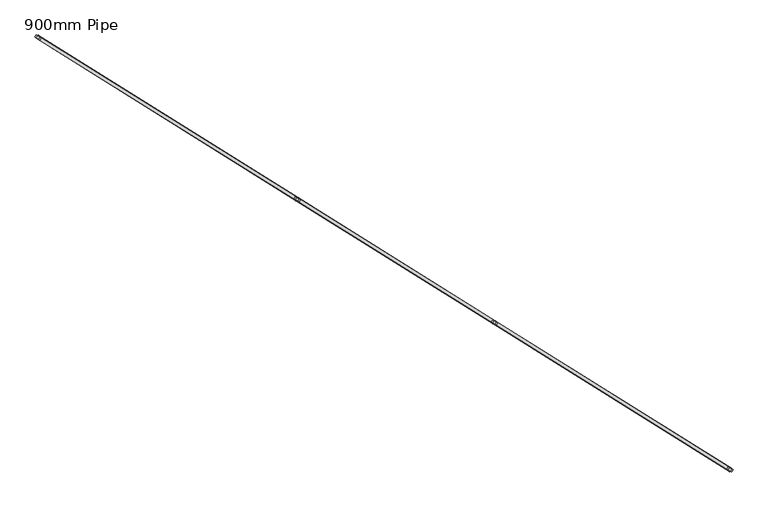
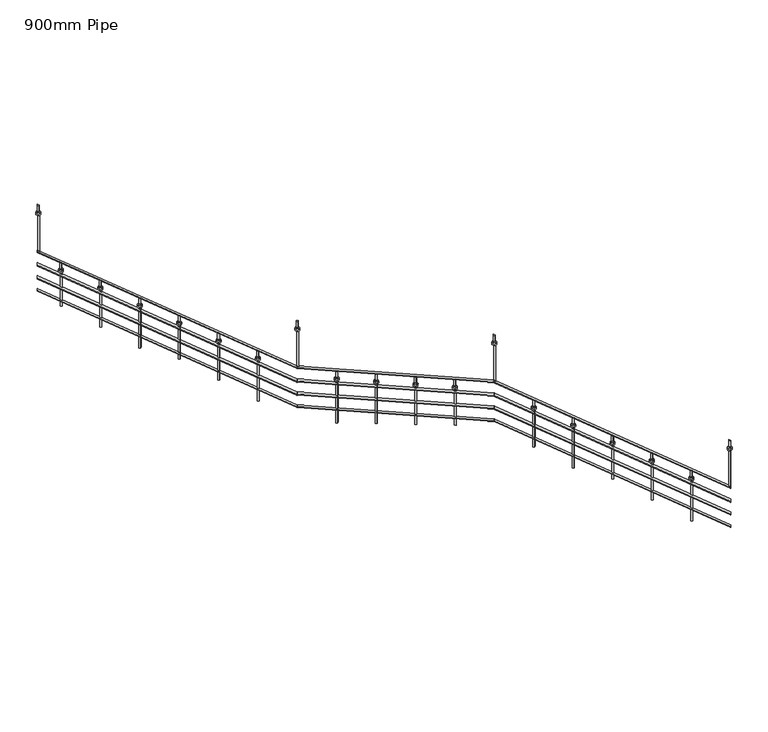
"""IFC4 building model written with IfcOpenShell, lengths in millimetres: railing geometry, 900mm Pipe."""

from ifc_helpers import new_model, si_unit, point, frame, frame_2d, origin, place, context, project, spatial, polyline, circle_curve, ellipse_curve, trimmed, segment, composite_curve, outline, extrude, source, transform, mapped, element, save
from ifc_brep_helpers import plane_surface, cylinder_surface, advanced_brep


def railing_900mm_pipe_e5f11df8(model_context):
    return source(origin(), model_context, "Body", "SolidModel", [
        advanced_brep(
        [(41792.9795079, -34893.5068983, -2760.3971154), (41777.08193, -34918.9483412, -2760.3971154), (39248.8352195, -33303.7491056, -1195.179724), (39232.9376415, -33329.1905485, -1195.179724)],
        [
            (0, 1, ellipse_curve(frame((41785.030719, -34906.2276198, -2760.3971154), z_axis=(0.8480480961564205, -0.5299192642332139, 0.0), x_axis=(0.0, 0.0, -1.0)), 16.9188545, 15.0)),
            (1, 0, ellipse_curve(frame((41785.030719, -34906.2276198, -2760.3971154), z_axis=(0.8480480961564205, -0.5299192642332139, 0.0), x_axis=(0.0, 0.0, -1.0)), 16.9188545, 15.0)),
            (2, 3, ellipse_curve(frame((39240.8864305, -33316.4698271, -1195.179724), z_axis=(-0.8480480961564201, 0.5299192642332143, 0.0), x_axis=(0.0, 0.0, -1.0)), 16.9188545, 15.0)),
            (3, 2, ellipse_curve(frame((39240.8864305, -33316.4698271, -1195.179724), z_axis=(-0.8480480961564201, 0.5299192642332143, 0.0), x_axis=(0.0, 0.0, -1.0)), 16.9188545, 15.0)),
            (0, 2),
            (3, 1),
        ],
        [
            plane_surface(frame((41785.030719, -34906.2276198, -2743.4782609), z_axis=(0.8480480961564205, -0.5299192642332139, 0.0), x_axis=(0.5299192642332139, 0.8480480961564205, 0.0))),
            plane_surface(frame((39240.8864305, -33316.4698271, -1178.2608696), z_axis=(-0.8480480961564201, 0.5299192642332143, 0.0), x_axis=(0.5299192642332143, 0.8480480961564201, 0.0))),
            cylinder_surface(frame((41779.1465456, -34902.5507802, -2756.7770336), z_axis=(0.7518665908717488, -0.4698183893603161, -0.46256600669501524), x_axis=(-0.5299192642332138, -0.8480480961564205, 0.0)), 15.0),
        ],
        [
            (0, [[1, 2]]),
            (1, [[3, 4]]),
            (2, [[-1, 5, -4, 6]]),
            (2, [[-2, -6, -3, -5]]),
        ],
    ),
        advanced_brep(
        [(39248.8352195, -33303.7491056, -1193.2902397), (39232.9376415, -33329.1905485, -1193.2902397), (37128.7149791, -31978.9509451, -1036.7685005), (37112.8174011, -32004.3923879, -1036.7685005)],
        [
            (0, 1, ellipse_curve(frame((39240.8864305, -33316.4698271, -1193.2902397), z_axis=(0.8480480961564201, -0.5299192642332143, 0.0), x_axis=(0.0, 0.0, -1.0)), 15.0293701, 15.0)),
            (1, 0, ellipse_curve(frame((39240.8864305, -33316.4698271, -1193.2902397), z_axis=(0.8480480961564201, -0.5299192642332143, 0.0), x_axis=(0.0, 0.0, -1.0)), 15.0293701, 15.0)),
            (2, 3, ellipse_curve(frame((37120.7661901, -31991.6716665, -1036.7685005), z_axis=(-0.8480480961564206, 0.5299192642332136, 0.0), x_axis=(0.0, 0.0, -1.0)), 15.0293701, 15.0)),
            (3, 2, ellipse_curve(frame((37120.7661901, -31991.6716665, -1036.7685005), z_axis=(-0.8480480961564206, 0.5299192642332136, 0.0), x_axis=(0.0, 0.0, -1.0)), 15.0293701, 15.0)),
            (0, 2),
            (3, 1),
        ],
        [
            plane_surface(frame((39240.8864305, -33316.4698271, -1178.2608696), z_axis=(0.8480480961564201, -0.5299192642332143, 0.0), x_axis=(0.5299192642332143, 0.8480480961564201, 0.0))),
            plane_surface(frame((37120.7661901, -31991.6716665, -1021.7391304), z_axis=(-0.8480480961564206, 0.5299192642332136, 0.0), x_axis=(0.5299192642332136, 0.8480480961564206, 0.0))),
            cylinder_surface(frame((39240.0915591, -33315.9731363, -1193.2315568), z_axis=(0.8463908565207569, -0.5288837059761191, -0.062486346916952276), x_axis=(-0.5299192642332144, -0.8480480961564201, 0.0)), 15.0),
        ],
        [
            (0, [[1, 2]]),
            (1, [[3, 4]]),
            (2, [[-1, 5, -4, 6]]),
            (2, [[-2, -6, -3, -5]]),
        ],
    ),
        advanced_brep(
        [(37128.7149791, -31978.9509451, -1038.6579849), (37112.8174011, -32004.3923879, -1038.6579849), (34330.1562617, -30230.2173731, 683.0811455), (34314.2586838, -30255.658816, 683.0811455)],
        [
            (0, 1, ellipse_curve(frame((37120.7661901, -31991.6716665, -1038.6579849), z_axis=(0.8480480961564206, -0.5299192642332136, 0.0), x_axis=(0.0, 0.0, -1.0)), 16.9188545, 15.0)),
            (1, 0, ellipse_curve(frame((37120.7661901, -31991.6716665, -1038.6579849), z_axis=(0.8480480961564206, -0.5299192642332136, 0.0), x_axis=(0.0, 0.0, -1.0)), 16.9188545, 15.0)),
            (2, 3, ellipse_curve(frame((34322.2074728, -30242.9380945, 683.0811455), z_axis=(-0.8480480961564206, 0.5299192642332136, 0.0), x_axis=(0.0, 0.0, -1.0)), 16.9188545, 15.0)),
            (3, 2, ellipse_curve(frame((34322.2074728, -30242.9380945, 683.0811455), z_axis=(-0.8480480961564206, 0.5299192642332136, 0.0), x_axis=(0.0, 0.0, -1.0)), 16.9188545, 15.0)),
            (0, 2),
            (3, 1),
        ],
        [
            plane_surface(frame((37120.7661901, -31991.6716665, -1021.7391304), z_axis=(0.8480480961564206, -0.5299192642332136, 0.0), x_axis=(0.5299192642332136, 0.8480480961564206, 0.0))),
            plane_surface(frame((34322.2074728, -30242.9380945, 700.0), z_axis=(-0.8480480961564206, 0.5299192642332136, 0.0), x_axis=(0.5299192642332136, 0.8480480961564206, 0.0))),
            cylinder_surface(frame((37114.8820168, -31987.9948269, -1035.0379031), z_axis=(0.7518665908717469, -0.4698183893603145, -0.46256600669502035), x_axis=(-0.5299192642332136, -0.8480480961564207, 0.0)), 15.0),
        ],
        [
            (0, [[1, 2]]),
            (1, [[3, 4]]),
            (2, [[-1, 5, -4, 6]]),
            (2, [[-2, -6, -3, -5]]),
        ],
    ),
        advanced_brep(
        [(41795.6291042, -34889.2666579, -2966.0367335), (41774.4323337, -34923.1885817, -2966.0367335), (39251.4848158, -33299.5088652, -1400.8193422), (39230.2880452, -33333.430789, -1400.8193422)],
        [
            (0, 1, ellipse_curve(frame((41785.030719, -34906.2276198, -2966.0367335), z_axis=(0.8480480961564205, -0.5299192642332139, 0.0), x_axis=(0.0, 0.0, -1.0)), 22.5584726, 20.0)),
            (1, 0, ellipse_curve(frame((41785.030719, -34906.2276198, -2966.0367335), z_axis=(0.8480480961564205, -0.5299192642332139, 0.0), x_axis=(0.0, 0.0, -1.0)), 22.5584726, 20.0)),
            (2, 3, ellipse_curve(frame((39240.8864305, -33316.4698271, -1400.8193422), z_axis=(-0.8480480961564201, 0.5299192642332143, 0.0), x_axis=(0.0, 0.0, -1.0)), 22.5584726, 20.0)),
            (3, 2, ellipse_curve(frame((39240.8864305, -33316.4698271, -1400.8193422), z_axis=(-0.8480480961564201, 0.5299192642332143, 0.0), x_axis=(0.0, 0.0, -1.0)), 22.5584726, 20.0)),
            (0, 2),
            (3, 1),
        ],
        [
            plane_surface(frame((41785.030719, -34906.2276198, -2943.4782609), z_axis=(0.8480480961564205, -0.5299192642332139, 0.0), x_axis=(0.5299192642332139, 0.8480480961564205, 0.0))),
            plane_surface(frame((39240.8864305, -33316.4698271, -1378.2608696), z_axis=(-0.8480480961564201, 0.5299192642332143, 0.0), x_axis=(0.5299192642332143, 0.8480480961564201, 0.0))),
            cylinder_surface(frame((41777.1851545, -34901.325167, -2961.2099578), z_axis=(0.7518665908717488, -0.4698183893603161, -0.46256600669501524), x_axis=(-0.5299192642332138, -0.8480480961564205, 0.0)), 20.0),
        ],
        [
            (0, [[1, 2]]),
            (1, [[3, 4]]),
            (2, [[-1, 5, -4, 6]]),
            (2, [[-2, -6, -3, -5]]),
        ],
    ),
        advanced_brep(
        [(39251.4848158, -33299.5088652, -1398.3000297), (39230.2880452, -33333.430789, -1398.3000297), (37131.3645754, -31974.7107046, -1241.7782906), (37110.1678048, -32008.6326284, -1241.7782906)],
        [
            (0, 1, ellipse_curve(frame((39240.8864305, -33316.4698271, -1398.3000297), z_axis=(0.8480480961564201, -0.5299192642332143, 0.0), x_axis=(0.0, 0.0, -1.0)), 20.0391601, 20.0)),
            (1, 0, ellipse_curve(frame((39240.8864305, -33316.4698271, -1398.3000297), z_axis=(0.8480480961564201, -0.5299192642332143, 0.0), x_axis=(0.0, 0.0, -1.0)), 20.0391601, 20.0)),
            (2, 3, ellipse_curve(frame((37120.7661901, -31991.6716665, -1241.7782906), z_axis=(-0.8480480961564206, 0.5299192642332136, 0.0), x_axis=(0.0, 0.0, -1.0)), 20.0391601, 20.0)),
            (3, 2, ellipse_curve(frame((37120.7661901, -31991.6716665, -1241.7782906), z_axis=(-0.8480480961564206, 0.5299192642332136, 0.0), x_axis=(0.0, 0.0, -1.0)), 20.0391601, 20.0)),
            (0, 2),
            (3, 1),
        ],
        [
            plane_surface(frame((39240.8864305, -33316.4698271, -1378.2608696), z_axis=(0.8480480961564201, -0.5299192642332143, 0.0), x_axis=(0.5299192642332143, 0.8480480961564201, 0.0))),
            plane_surface(frame((37120.7661901, -31991.6716665, -1221.7391304), z_axis=(-0.8480480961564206, 0.5299192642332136, 0.0), x_axis=(0.5299192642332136, 0.8480480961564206, 0.0))),
            cylinder_surface(frame((39239.8266019, -33315.8075727, -1398.2217859), z_axis=(0.8463908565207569, -0.5288837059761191, -0.062486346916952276), x_axis=(-0.5299192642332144, -0.8480480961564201, 0.0)), 20.0),
        ],
        [
            (0, [[1, 2]]),
            (1, [[3, 4]]),
            (2, [[-1, 5, -4, 6]]),
            (2, [[-2, -6, -3, -5]]),
        ],
    ),
        advanced_brep(
        [(37131.3645754, -31974.7107046, -1244.2976031), (37110.1678048, -32008.6326284, -1244.2976031), (34332.8058581, -30225.9771326, 477.4415274), (34311.6090875, -30259.8990565, 477.4415274)],
        [
            (0, 1, ellipse_curve(frame((37120.7661901, -31991.6716665, -1244.2976031), z_axis=(0.8480480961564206, -0.5299192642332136, 0.0), x_axis=(0.0, 0.0, -1.0)), 22.5584726, 20.0)),
            (1, 0, ellipse_curve(frame((37120.7661901, -31991.6716665, -1244.2976031), z_axis=(0.8480480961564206, -0.5299192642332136, 0.0), x_axis=(0.0, 0.0, -1.0)), 22.5584726, 20.0)),
            (2, 3, ellipse_curve(frame((34322.2074728, -30242.9380945, 477.4415274), z_axis=(-0.8480480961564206, 0.5299192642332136, 0.0), x_axis=(0.0, 0.0, -1.0)), 22.5584726, 20.0)),
            (3, 2, ellipse_curve(frame((34322.2074728, -30242.9380945, 477.4415274), z_axis=(-0.8480480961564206, 0.5299192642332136, 0.0), x_axis=(0.0, 0.0, -1.0)), 22.5584726, 20.0)),
            (0, 2),
            (3, 1),
        ],
        [
            plane_surface(frame((37120.7661901, -31991.6716665, -1221.7391304), z_axis=(0.8480480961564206, -0.5299192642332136, 0.0), x_axis=(0.5299192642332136, 0.8480480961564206, 0.0))),
            plane_surface(frame((34322.2074728, -30242.9380945, 500.0), z_axis=(-0.8480480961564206, 0.5299192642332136, 0.0), x_axis=(0.5299192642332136, 0.8480480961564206, 0.0))),
            cylinder_surface(frame((37112.9206257, -31986.7692137, -1239.4708274), z_axis=(0.7518665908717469, -0.4698183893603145, -0.46256600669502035), x_axis=(-0.5299192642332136, -0.8480480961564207, 0.0)), 20.0),
        ],
        [
            (0, [[1, 2]]),
            (1, [[3, 4]]),
            (2, [[-1, 5, -4, 6]]),
            (2, [[-2, -6, -3, -5]]),
        ],
    ),
        advanced_brep(
        [(41795.6291042, -34889.2666579, -3166.0367335), (41774.4323337, -34923.1885817, -3166.0367335), (39251.4848158, -33299.5088652, -1600.8193422), (39230.2880452, -33333.430789, -1600.8193422)],
        [
            (0, 1, ellipse_curve(frame((41785.030719, -34906.2276198, -3166.0367335), z_axis=(0.8480480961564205, -0.5299192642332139, 0.0), x_axis=(0.0, 0.0, -1.0)), 22.5584726, 20.0)),
            (1, 0, ellipse_curve(frame((41785.030719, -34906.2276198, -3166.0367335), z_axis=(0.8480480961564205, -0.5299192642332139, 0.0), x_axis=(0.0, 0.0, -1.0)), 22.5584726, 20.0)),
            (2, 3, ellipse_curve(frame((39240.8864305, -33316.4698271, -1600.8193422), z_axis=(-0.8480480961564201, 0.5299192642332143, 0.0), x_axis=(0.0, 0.0, -1.0)), 22.5584726, 20.0)),
            (3, 2, ellipse_curve(frame((39240.8864305, -33316.4698271, -1600.8193422), z_axis=(-0.8480480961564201, 0.5299192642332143, 0.0), x_axis=(0.0, 0.0, -1.0)), 22.5584726, 20.0)),
            (0, 2),
            (3, 1),
        ],
        [
            plane_surface(frame((41785.030719, -34906.2276198, -3143.4782609), z_axis=(0.8480480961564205, -0.5299192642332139, 0.0), x_axis=(0.5299192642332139, 0.8480480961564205, 0.0))),
            plane_surface(frame((39240.8864305, -33316.4698271, -1578.2608696), z_axis=(-0.8480480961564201, 0.5299192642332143, 0.0), x_axis=(0.5299192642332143, 0.8480480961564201, 0.0))),
            cylinder_surface(frame((41777.1851545, -34901.325167, -3161.2099578), z_axis=(0.7518665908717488, -0.4698183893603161, -0.46256600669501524), x_axis=(-0.5299192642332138, -0.8480480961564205, 0.0)), 20.0),
        ],
        [
            (0, [[1, 2]]),
            (1, [[3, 4]]),
            (2, [[-1, 5, -4, 6]]),
            (2, [[-2, -6, -3, -5]]),
        ],
    ),
        advanced_brep(
        [(39251.4848158, -33299.5088652, -1598.3000297), (39230.2880452, -33333.430789, -1598.3000297), (37131.3645754, -31974.7107046, -1441.7782906), (37110.1678048, -32008.6326284, -1441.7782906)],
        [
            (0, 1, ellipse_curve(frame((39240.8864305, -33316.4698271, -1598.3000297), z_axis=(0.8480480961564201, -0.5299192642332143, 0.0), x_axis=(0.0, 0.0, -1.0)), 20.0391601, 20.0)),
            (1, 0, ellipse_curve(frame((39240.8864305, -33316.4698271, -1598.3000297), z_axis=(0.8480480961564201, -0.5299192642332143, 0.0), x_axis=(0.0, 0.0, -1.0)), 20.0391601, 20.0)),
            (2, 3, ellipse_curve(frame((37120.7661901, -31991.6716665, -1441.7782906), z_axis=(-0.8480480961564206, 0.5299192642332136, 0.0), x_axis=(0.0, 0.0, -1.0)), 20.0391601, 20.0)),
            (3, 2, ellipse_curve(frame((37120.7661901, -31991.6716665, -1441.7782906), z_axis=(-0.8480480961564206, 0.5299192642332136, 0.0), x_axis=(0.0, 0.0, -1.0)), 20.0391601, 20.0)),
            (0, 2),
            (3, 1),
        ],
        [
            plane_surface(frame((39240.8864305, -33316.4698271, -1578.2608696), z_axis=(0.8480480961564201, -0.5299192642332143, 0.0), x_axis=(0.5299192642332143, 0.8480480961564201, 0.0))),
            plane_surface(frame((37120.7661901, -31991.6716665, -1421.7391304), z_axis=(-0.8480480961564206, 0.5299192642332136, 0.0), x_axis=(0.5299192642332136, 0.8480480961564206, 0.0))),
            cylinder_surface(frame((39239.8266019, -33315.8075727, -1598.2217859), z_axis=(0.8463908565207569, -0.5288837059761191, -0.062486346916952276), x_axis=(-0.5299192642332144, -0.8480480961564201, 0.0)), 20.0),
        ],
        [
            (0, [[1, 2]]),
            (1, [[3, 4]]),
            (2, [[-1, 5, -4, 6]]),
            (2, [[-2, -6, -3, -5]]),
        ],
    ),
        advanced_brep(
        [(37131.3645754, -31974.7107046, -1444.2976031), (37110.1678048, -32008.6326284, -1444.2976031), (34332.8058581, -30225.9771326, 277.4415274), (34311.6090875, -30259.8990565, 277.4415274)],
        [
            (0, 1, ellipse_curve(frame((37120.7661901, -31991.6716665, -1444.2976031), z_axis=(0.8480480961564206, -0.5299192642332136, 0.0), x_axis=(0.0, 0.0, -1.0)), 22.5584726, 20.0)),
            (1, 0, ellipse_curve(frame((37120.7661901, -31991.6716665, -1444.2976031), z_axis=(0.8480480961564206, -0.5299192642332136, 0.0), x_axis=(0.0, 0.0, -1.0)), 22.5584726, 20.0)),
            (2, 3, ellipse_curve(frame((34322.2074728, -30242.9380945, 277.4415274), z_axis=(-0.8480480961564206, 0.5299192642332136, 0.0), x_axis=(0.0, 0.0, -1.0)), 22.5584726, 20.0)),
            (3, 2, ellipse_curve(frame((34322.2074728, -30242.9380945, 277.4415274), z_axis=(-0.8480480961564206, 0.5299192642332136, 0.0), x_axis=(0.0, 0.0, -1.0)), 22.5584726, 20.0)),
            (0, 2),
            (3, 1),
        ],
        [
            plane_surface(frame((37120.7661901, -31991.6716665, -1421.7391304), z_axis=(0.8480480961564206, -0.5299192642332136, 0.0), x_axis=(0.5299192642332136, 0.8480480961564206, 0.0))),
            plane_surface(frame((34322.2074728, -30242.9380945, 300.0), z_axis=(-0.8480480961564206, 0.5299192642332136, 0.0), x_axis=(0.5299192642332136, 0.8480480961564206, 0.0))),
            cylinder_surface(frame((37112.9206257, -31986.7692137, -1439.4708274), z_axis=(0.7518665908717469, -0.4698183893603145, -0.46256600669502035), x_axis=(-0.5299192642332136, -0.8480480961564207, 0.0)), 20.0),
        ],
        [
            (0, [[1, 2]]),
            (1, [[3, 4]]),
            (2, [[-1, 5, -4, 6]]),
            (2, [[-2, -6, -3, -5]]),
        ],
    ),
        advanced_brep(
        [(41792.9795079, -34893.5068983, -3360.3971154), (41777.08193, -34918.9483412, -3360.3971154), (39248.8352195, -33303.7491056, -1795.179724), (39232.9376415, -33329.1905485, -1795.179724)],
        [
            (0, 1, ellipse_curve(frame((41785.030719, -34906.2276198, -3360.3971154), z_axis=(0.8480480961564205, -0.5299192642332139, 0.0), x_axis=(0.0, 0.0, -1.0)), 16.9188545, 15.0)),
            (1, 0, ellipse_curve(frame((41785.030719, -34906.2276198, -3360.3971154), z_axis=(0.8480480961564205, -0.5299192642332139, 0.0), x_axis=(0.0, 0.0, -1.0)), 16.9188545, 15.0)),
            (2, 3, ellipse_curve(frame((39240.8864305, -33316.4698271, -1795.179724), z_axis=(-0.8480480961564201, 0.5299192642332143, 0.0), x_axis=(0.0, 0.0, -1.0)), 16.9188545, 15.0)),
            (3, 2, ellipse_curve(frame((39240.8864305, -33316.4698271, -1795.179724), z_axis=(-0.8480480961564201, 0.5299192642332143, 0.0), x_axis=(0.0, 0.0, -1.0)), 16.9188545, 15.0)),
            (0, 2),
            (3, 1),
        ],
        [
            plane_surface(frame((41785.030719, -34906.2276198, -3343.4782609), z_axis=(0.8480480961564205, -0.5299192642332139, 0.0), x_axis=(0.5299192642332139, 0.8480480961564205, 0.0))),
            plane_surface(frame((39240.8864305, -33316.4698271, -1778.2608696), z_axis=(-0.8480480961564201, 0.5299192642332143, 0.0), x_axis=(0.5299192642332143, 0.8480480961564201, 0.0))),
            cylinder_surface(frame((41779.1465456, -34902.5507802, -3356.7770336), z_axis=(0.7518665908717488, -0.4698183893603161, -0.46256600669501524), x_axis=(-0.5299192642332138, -0.8480480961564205, 0.0)), 15.0),
        ],
        [
            (0, [[1, 2]]),
            (1, [[3, 4]]),
            (2, [[-1, 5, -4, 6]]),
            (2, [[-2, -6, -3, -5]]),
        ],
    ),
        advanced_brep(
        [(39248.8352195, -33303.7491056, -1793.2902397), (39232.9376415, -33329.1905485, -1793.2902397), (37128.7149791, -31978.9509451, -1636.7685005), (37112.8174011, -32004.3923879, -1636.7685005)],
        [
            (0, 1, ellipse_curve(frame((39240.8864305, -33316.4698271, -1793.2902397), z_axis=(0.8480480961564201, -0.5299192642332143, 0.0), x_axis=(0.0, 0.0, -1.0)), 15.0293701, 15.0)),
            (1, 0, ellipse_curve(frame((39240.8864305, -33316.4698271, -1793.2902397), z_axis=(0.8480480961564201, -0.5299192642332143, 0.0), x_axis=(0.0, 0.0, -1.0)), 15.0293701, 15.0)),
            (2, 3, ellipse_curve(frame((37120.7661901, -31991.6716665, -1636.7685005), z_axis=(-0.8480480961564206, 0.5299192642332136, 0.0), x_axis=(0.0, 0.0, -1.0)), 15.0293701, 15.0)),
            (3, 2, ellipse_curve(frame((37120.7661901, -31991.6716665, -1636.7685005), z_axis=(-0.8480480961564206, 0.5299192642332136, 0.0), x_axis=(0.0, 0.0, -1.0)), 15.0293701, 15.0)),
            (0, 2),
            (3, 1),
        ],
        [
            plane_surface(frame((39240.8864305, -33316.4698271, -1778.2608696), z_axis=(0.8480480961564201, -0.5299192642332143, 0.0), x_axis=(0.5299192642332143, 0.8480480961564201, 0.0))),
            plane_surface(frame((37120.7661901, -31991.6716665, -1621.7391304), z_axis=(-0.8480480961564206, 0.5299192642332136, 0.0), x_axis=(0.5299192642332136, 0.8480480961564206, 0.0))),
            cylinder_surface(frame((39240.0915591, -33315.9731363, -1793.2315568), z_axis=(0.8463908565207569, -0.5288837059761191, -0.062486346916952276), x_axis=(-0.5299192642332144, -0.8480480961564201, 0.0)), 15.0),
        ],
        [
            (0, [[1, 2]]),
            (1, [[3, 4]]),
            (2, [[-1, 5, -4, 6]]),
            (2, [[-2, -6, -3, -5]]),
        ],
    ),
        advanced_brep(
        [(37128.7149791, -31978.9509451, -1638.6579849), (37112.8174011, -32004.3923879, -1638.6579849), (34330.1562617, -30230.2173731, 83.0811455), (34314.2586838, -30255.658816, 83.0811455)],
        [
            (0, 1, ellipse_curve(frame((37120.7661901, -31991.6716665, -1638.6579849), z_axis=(0.8480480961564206, -0.5299192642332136, 0.0), x_axis=(0.0, 0.0, -1.0)), 16.9188545, 15.0)),
            (1, 0, ellipse_curve(frame((37120.7661901, -31991.6716665, -1638.6579849), z_axis=(0.8480480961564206, -0.5299192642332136, 0.0), x_axis=(0.0, 0.0, -1.0)), 16.9188545, 15.0)),
            (2, 3, ellipse_curve(frame((34322.2074728, -30242.9380945, 83.0811455), z_axis=(-0.8480480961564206, 0.5299192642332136, 0.0), x_axis=(0.0, 0.0, -1.0)), 16.9188545, 15.0)),
            (3, 2, ellipse_curve(frame((34322.2074728, -30242.9380945, 83.0811455), z_axis=(-0.8480480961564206, 0.5299192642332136, 0.0), x_axis=(0.0, 0.0, -1.0)), 16.9188545, 15.0)),
            (0, 2),
            (3, 1),
        ],
        [
            plane_surface(frame((37120.7661901, -31991.6716665, -1621.7391304), z_axis=(0.8480480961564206, -0.5299192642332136, 0.0), x_axis=(0.5299192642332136, 0.8480480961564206, 0.0))),
            plane_surface(frame((34322.2074728, -30242.9380945, 100.0), z_axis=(-0.8480480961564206, 0.5299192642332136, 0.0), x_axis=(0.5299192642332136, 0.8480480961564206, 0.0))),
            cylinder_surface(frame((37114.8820168, -31987.9948269, -1635.0379031), z_axis=(0.7518665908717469, -0.4698183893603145, -0.46256600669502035), x_axis=(-0.5299192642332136, -0.8480480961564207, 0.0)), 15.0),
        ],
        [
            (0, [[1, 2]]),
            (1, [[3, 4]]),
            (2, [[-1, 5, -4, 6]]),
            (2, [[-2, -6, -3, -5]]),
        ],
    ),
        extrude(outline(composite_curve([segment(trimmed(circle_curve(frame_2d((0.0, 31.75)), 31.75), [point((0.0, 63.5))], [point((0.0, 0.0))], False, "CARTESIAN"), True, "CONTINUOUS"), segment(trimmed(circle_curve(frame_2d((0.0, 31.75)), 31.75), [point((0.0, 0.0))], [point((0.0, 63.5))], False, "CARTESIAN"), True, "CONTINUOUS")], self_intersect=False), holes=[composite_curve([segment(trimmed(circle_curve(frame_2d((0.0, 31.75)), 12.7), [point((0.0, 44.4499999))], [point((0.0, 19.05))], True, "CARTESIAN"), True, "CONTINUOUS"), segment(trimmed(circle_curve(frame_2d((0.0, 31.75)), 12.7), [point((0.0, 19.05))], [point((0.0, 44.4499999))], True, "CARTESIAN"), True, "CONTINUOUS")], self_intersect=False)]), frame((34596.817454, -30429.5090213, 392.8282609), z_axis=(0.5299192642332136, 0.8480480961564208, 0.0), x_axis=(0.0, 0.0, -1.0)), (0.0, 0.0, 1.0), 25.4),
        extrude(outline(polyline([(34585.0371842, -30418.4040002), (34563.4967625, -30404.9440509), (34576.9567118, -30383.4036293), (34598.4971335, -30396.8635786), (34585.0371842, -30418.4040002)])), frame((0.0, 0.0, -156.5217391), z_axis=(0.0, 0.0, 1.0), x_axis=(1.0, 0.0, 0.0)), (0.0, 0.0, 1.0), 517.6),
        extrude(outline(polyline([(317.5, 0.0), (235.226087, 0.0), (221.9739131, 25.4), (317.5, 25.4), (317.5, 0.0)])), frame((34580.6621378, -30419.4140593, 742.0782609), z_axis=(0.5299192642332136, 0.8480480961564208, 0.0), x_axis=(0.0, 0.0, -1.0)), (0.0, 0.0, 1.0), 25.4),
        extrude(outline(composite_curve([segment(trimmed(circle_curve(frame_2d((0.0, 31.7500001)), 31.75), [point((0.0, 63.5))], [point((0.0, 0.0))], False, "CARTESIAN"), True, "CONTINUOUS"), segment(trimmed(circle_curve(frame_2d((0.0, 31.7500001)), 31.75), [point((0.0, 0.0))], [point((0.0, 63.5))], False, "CARTESIAN"), True, "CONTINUOUS")], self_intersect=False), holes=[composite_curve([segment(trimmed(circle_curve(frame_2d((0.0, 31.7500001)), 12.7), [point((0.0, 44.45))], [point((0.0, 19.05))], True, "CARTESIAN"), True, "CONTINUOUS"), segment(trimmed(circle_curve(frame_2d((0.0, 31.7500001)), 12.7), [point((0.0, 19.05))], [point((0.0, 44.45))], True, "CARTESIAN"), True, "CONTINUOUS")], self_intersect=False)]), frame((35020.8415021, -30694.4686534, 131.9586957), z_axis=(0.5299192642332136, 0.8480480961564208, 0.0), x_axis=(0.0, 0.0, -1.0)), (0.0, 0.0, 1.0), 25.4),
        extrude(outline(polyline([(35009.0612322, -30683.3636324), (34987.5208106, -30669.903683), (35000.9807599, -30648.3632614), (35022.5211816, -30661.8232107), (35009.0612322, -30683.3636324)])), frame((0.0, 0.0, -469.5652174), z_axis=(0.0, 0.0, 1.0), x_axis=(1.0, 0.0, 0.0)), (0.0, 0.0, 1.0), 569.773913),
        extrude(outline(polyline([(317.5, 0.0), (235.226087, 0.0), (221.9739131, 25.4), (317.5, 25.4), (317.5, 0.0)])), frame((35004.6861859, -30684.3736914, 481.2086957), z_axis=(0.5299192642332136, 0.8480480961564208, 0.0), x_axis=(0.0, 0.0, -1.0)), (0.0, 0.0, 1.0), 25.4),
        extrude(outline(composite_curve([segment(trimmed(circle_curve(frame_2d((0.0, 31.75)), 31.75), [point((0.0, 63.5))], [point((0.0, 0.0))], False, "CARTESIAN"), True, "CONTINUOUS"), segment(trimmed(circle_curve(frame_2d((0.0, 31.75)), 31.75), [point((0.0, 0.0))], [point((0.0, 63.5))], False, "CARTESIAN"), True, "CONTINUOUS")], self_intersect=False), holes=[composite_curve([segment(trimmed(circle_curve(frame_2d((0.0, 31.75)), 12.7), [point((0.0, 44.45))], [point((0.0, 19.0500001))], True, "CARTESIAN"), True, "CONTINUOUS"), segment(trimmed(circle_curve(frame_2d((0.0, 31.75)), 12.7), [point((0.0, 19.0500001))], [point((0.0, 44.45))], True, "CARTESIAN"), True, "CONTINUOUS")], self_intersect=False)]), frame((35444.8655502, -30959.4282855, -128.9108696), z_axis=(0.5299192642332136, 0.8480480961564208, 0.0), x_axis=(0.0, 0.0, -1.0)), (0.0, 0.0, 1.0), 25.4),
        extrude(outline(polyline([(35433.0852803, -30948.3232645), (35411.5448587, -30934.8633152), (35425.004808, -30913.3228935), (35446.5452296, -30926.7828428), (35433.0852803, -30948.3232645)])), frame((0.0, 0.0, -782.6086957), z_axis=(0.0, 0.0, 1.0), x_axis=(1.0, 0.0, 0.0)), (0.0, 0.0, 1.0), 621.9478261),
        extrude(outline(polyline([(317.5, 0.0), (235.2260869, 0.0), (221.973913, 25.4), (317.5, 25.4), (317.5, 0.0)])), frame((35428.7102339, -30949.3333235, 220.3391304), z_axis=(0.5299192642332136, 0.8480480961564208, 0.0), x_axis=(0.0, 0.0, -1.0)), (0.0, 0.0, 1.0), 25.4),
        extrude(outline(composite_curve([segment(trimmed(circle_curve(frame_2d((0.0, 31.75)), 31.75), [point((0.0, 63.5))], [point((0.0, 0.0))], False, "CARTESIAN"), True, "CONTINUOUS"), segment(trimmed(circle_curve(frame_2d((0.0, 31.75)), 31.75), [point((0.0, 0.0))], [point((0.0, 63.5))], False, "CARTESIAN"), True, "CONTINUOUS")], self_intersect=False), holes=[composite_curve([segment(trimmed(circle_curve(frame_2d((0.0, 31.75)), 12.7), [point((0.0, 44.45))], [point((0.0, 19.0500001))], True, "CARTESIAN"), True, "CONTINUOUS"), segment(trimmed(circle_curve(frame_2d((0.0, 31.75)), 12.7), [point((0.0, 19.0500001))], [point((0.0, 44.45))], True, "CARTESIAN"), True, "CONTINUOUS")], self_intersect=False)]), frame((35868.8895983, -31224.3879176, -389.7804348), z_axis=(0.5299192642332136, 0.8480480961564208, 0.0), x_axis=(0.0, 0.0, -1.0)), (0.0, 0.0, 1.0), 25.4),
        extrude(outline(polyline([(35857.1093284, -31213.2828966), (35835.5689068, -31199.8229473), (35849.0288561, -31178.2825256), (35870.5692777, -31191.742475), (35857.1093284, -31213.2828966)])), frame((0.0, 0.0, -939.1304348), z_axis=(0.0, 0.0, 1.0), x_axis=(1.0, 0.0, 0.0)), (0.0, 0.0, 1.0), 517.6),
        extrude(outline(polyline([(317.5, 0.0), (235.2260869, 0.0), (221.973913, 25.4), (317.5, 25.4), (317.5, 0.0)])), frame((35852.734282, -31214.2929556, -40.5304348), z_axis=(0.5299192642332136, 0.8480480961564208, 0.0), x_axis=(0.0, 0.0, -1.0)), (0.0, 0.0, 1.0), 25.4),
        extrude(outline(composite_curve([segment(trimmed(circle_curve(frame_2d((0.0, 31.7499999)), 31.75), [point((0.0, 63.5))], [point((0.0, 0.0))], False, "CARTESIAN"), True, "CONTINUOUS"), segment(trimmed(circle_curve(frame_2d((0.0, 31.7499999)), 31.75), [point((0.0, 0.0))], [point((0.0, 63.5))], False, "CARTESIAN"), True, "CONTINUOUS")], self_intersect=False), holes=[composite_curve([segment(trimmed(circle_curve(frame_2d((0.0, 31.7499999)), 12.7), [point((0.0, 44.4499999))], [point((0.0, 19.0499999))], True, "CARTESIAN"), True, "CONTINUOUS"), segment(trimmed(circle_curve(frame_2d((0.0, 31.7499999)), 12.7), [point((0.0, 19.0499999))], [point((0.0, 44.4499999))], True, "CARTESIAN"), True, "CONTINUOUS")], self_intersect=False)]), frame((36292.9136463, -31489.3475497, -650.65), z_axis=(0.5299192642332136, 0.8480480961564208, 0.0), x_axis=(0.0, 0.0, -1.0)), (0.0, 0.0, 1.0), 25.4),
        extrude(outline(polyline([(36281.1333765, -31478.2425287), (36259.5929548, -31464.7825794), (36273.0529041, -31443.2421578), (36294.5933258, -31456.7021071), (36281.1333765, -31478.2425287)])), frame((0.0, 0.0, -1252.173913), z_axis=(0.0, 0.0, 1.0), x_axis=(1.0, 0.0, 0.0)), (0.0, 0.0, 1.0), 569.773913),
        extrude(outline(polyline([(317.5, 0.0), (235.226087, 0.0), (221.973913, 25.4), (317.5, 25.4), (317.5, 0.0)])), frame((36276.7583301, -31479.2525878, -301.4), z_axis=(0.5299192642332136, 0.8480480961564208, 0.0), x_axis=(0.0, 0.0, -1.0)), (0.0, 0.0, 1.0), 25.4),
        extrude(outline(composite_curve([segment(trimmed(circle_curve(frame_2d((0.0, 31.75)), 31.75), [point((0.0, 63.5))], [point((0.0, 0.0))], False, "CARTESIAN"), True, "CONTINUOUS"), segment(trimmed(circle_curve(frame_2d((0.0, 31.75)), 31.75), [point((0.0, 0.0))], [point((0.0, 63.5))], False, "CARTESIAN"), True, "CONTINUOUS")], self_intersect=False), holes=[composite_curve([segment(trimmed(circle_curve(frame_2d((0.0, 31.75)), 12.7), [point((0.0, 44.45))], [point((0.0, 19.05))], True, "CARTESIAN"), True, "CONTINUOUS"), segment(trimmed(circle_curve(frame_2d((0.0, 31.75)), 12.7), [point((0.0, 19.05))], [point((0.0, 44.45))], True, "CARTESIAN"), True, "CONTINUOUS")], self_intersect=False)]), frame((36716.9376944, -31754.3071819, -911.5195652), z_axis=(0.5299192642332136, 0.8480480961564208, 0.0), x_axis=(0.0, 0.0, -1.0)), (0.0, 0.0, 1.0), 25.4),
        extrude(outline(polyline([(36705.1574246, -31743.2021608), (36683.6170029, -31729.7422115), (36697.0769522, -31708.2017899), (36718.6173739, -31721.6617392), (36705.1574246, -31743.2021608)])), frame((0.0, 0.0, -1565.2173913), z_axis=(0.0, 0.0, 1.0), x_axis=(1.0, 0.0, 0.0)), (0.0, 0.0, 1.0), 621.9478261),
        extrude(outline(polyline([(317.5, 0.0), (235.226087, 0.0), (221.9739131, 25.4), (317.5, 25.4), (317.5, 0.0)])), frame((36700.7823782, -31744.2122199, -562.2695652), z_axis=(0.5299192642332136, 0.8480480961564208, 0.0), x_axis=(0.0, 0.0, -1.0)), (0.0, 0.0, 1.0), 25.4),
        extrude(outline(composite_curve([segment(trimmed(circle_curve(frame_2d((0.0, 31.7500001)), 31.75), [point((0.0, 63.5))], [point((0.0, 0.0))], False, "CARTESIAN"), True, "CONTINUOUS"), segment(trimmed(circle_curve(frame_2d((0.0, 31.7500001)), 31.75), [point((0.0, 0.0))], [point((0.0, 63.5))], False, "CARTESIAN"), True, "CONTINUOUS")], self_intersect=False), holes=[composite_curve([segment(trimmed(circle_curve(frame_2d((0.0, 31.7500001)), 12.7), [point((0.0, 44.45))], [point((0.0, 19.0500001))], True, "CARTESIAN"), True, "CONTINUOUS"), segment(trimmed(circle_curve(frame_2d((0.0, 31.7500001)), 12.7), [point((0.0, 19.0500001))], [point((0.0, 44.45))], True, "CARTESIAN"), True, "CONTINUOUS")], self_intersect=False)]), frame((37564.9857906, -32284.2264461, -1203.6934783), z_axis=(0.5299192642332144, 0.8480480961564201, 0.0), x_axis=(0.0, 0.0, -1.0)), (0.0, 0.0, 1.0), 25.4),
        extrude(outline(polyline([(37553.2055207, -32273.1214251), (37531.6650991, -32259.6614757), (37545.1250484, -32238.1210541), (37566.66547, -32251.5810034), (37553.2055207, -32273.1214251)])), frame((0.0, 0.0, -1878.2608696), z_axis=(0.0, 0.0, 1.0), x_axis=(1.0, 0.0, 0.0)), (0.0, 0.0, 1.0), 642.8173913),
        extrude(outline(polyline([(317.5, 0.0), (229.3951304, 0.0), (227.8048695, 25.4), (317.5, 25.4), (317.5, 0.0)])), frame((37548.8304743, -32274.1314841, -854.4434783), z_axis=(0.5299192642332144, 0.8480480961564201, 0.0), x_axis=(0.0, 0.0, -1.0)), (0.0, 0.0, 1.0), 25.4),
        extrude(outline(composite_curve([segment(trimmed(circle_curve(frame_2d((0.0, 31.7499999)), 31.75), [point((0.0, 63.5))], [point((0.0, 0.0))], False, "CARTESIAN"), True, "CONTINUOUS"), segment(trimmed(circle_curve(frame_2d((0.0, 31.7499999)), 31.75), [point((0.0, 0.0))], [point((0.0, 63.5))], False, "CARTESIAN"), True, "CONTINUOUS")], self_intersect=False), holes=[composite_curve([segment(trimmed(circle_curve(frame_2d((0.0, 31.7499999)), 12.7), [point((0.0, 44.4499999))], [point((0.0, 19.05))], True, "CARTESIAN"), True, "CONTINUOUS"), segment(trimmed(circle_curve(frame_2d((0.0, 31.7499999)), 12.7), [point((0.0, 19.05))], [point((0.0, 44.4499999))], True, "CARTESIAN"), True, "CONTINUOUS")], self_intersect=False)]), frame((37989.0098386, -32549.1860782, -1234.9978261), z_axis=(0.5299192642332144, 0.8480480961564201, 0.0), x_axis=(0.0, 0.0, -1.0)), (0.0, 0.0, 1.0), 25.4),
        extrude(outline(polyline([(37977.2295688, -32538.0810572), (37955.6891471, -32524.6211079), (37969.1490965, -32503.0806862), (37990.6895181, -32516.5406355), (37977.2295688, -32538.0810572)])), frame((0.0, 0.0, -1878.2608696), z_axis=(0.0, 0.0, 1.0), x_axis=(1.0, 0.0, 0.0)), (0.0, 0.0, 1.0), 611.5130435),
        extrude(outline(polyline([(317.5, 0.0), (229.3951304, 0.0), (227.8048696, 25.4), (317.5, 25.4), (317.5, 0.0)])), frame((37972.8545224, -32539.0911162, -885.7478261), z_axis=(0.5299192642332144, 0.8480480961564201, 0.0), x_axis=(0.0, 0.0, -1.0)), (0.0, 0.0, 1.0), 25.4),
        extrude(outline(composite_curve([segment(trimmed(circle_curve(frame_2d((0.0, 31.7499999)), 31.75), [point((0.0, 63.5))], [point((0.0, 0.0))], False, "CARTESIAN"), True, "CONTINUOUS"), segment(trimmed(circle_curve(frame_2d((0.0, 31.7499999)), 31.75), [point((0.0, 0.0))], [point((0.0, 63.5))], False, "CARTESIAN"), True, "CONTINUOUS")], self_intersect=False), holes=[composite_curve([segment(trimmed(circle_curve(frame_2d((0.0, 31.7499999)), 12.7), [point((0.0, 44.4499999))], [point((0.0, 19.05))], True, "CARTESIAN"), True, "CONTINUOUS"), segment(trimmed(circle_curve(frame_2d((0.0, 31.7499999)), 12.7), [point((0.0, 19.05))], [point((0.0, 44.4499999))], True, "CARTESIAN"), True, "CONTINUOUS")], self_intersect=False)]), frame((38413.0338867, -32814.1457103, -1266.3021739), z_axis=(0.5299192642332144, 0.8480480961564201, 0.0), x_axis=(0.0, 0.0, -1.0)), (0.0, 0.0, 1.0), 25.4),
        extrude(outline(polyline([(38401.2536169, -32803.0406893), (38379.7131952, -32789.58074), (38393.1731445, -32768.0403183), (38414.7135662, -32781.5002677), (38401.2536169, -32803.0406893)])), frame((0.0, 0.0, -1878.2608696), z_axis=(0.0, 0.0, 1.0), x_axis=(1.0, 0.0, 0.0)), (0.0, 0.0, 1.0), 580.2086957),
        extrude(outline(polyline([(317.5, 0.0), (229.3951304, 0.0), (227.8048696, 25.4), (317.5, 25.4), (317.5, 0.0)])), frame((38396.8785705, -32804.0507483, -917.0521739), z_axis=(0.5299192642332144, 0.8480480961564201, 0.0), x_axis=(0.0, 0.0, -1.0)), (0.0, 0.0, 1.0), 25.4),
        extrude(outline(composite_curve([segment(trimmed(circle_curve(frame_2d((0.0, 31.7499999)), 31.75), [point((0.0, 63.5))], [point((0.0, 0.0))], False, "CARTESIAN"), True, "CONTINUOUS"), segment(trimmed(circle_curve(frame_2d((0.0, 31.7499999)), 31.75), [point((0.0, 0.0))], [point((0.0, 63.5))], False, "CARTESIAN"), True, "CONTINUOUS")], self_intersect=False), holes=[composite_curve([segment(trimmed(circle_curve(frame_2d((0.0, 31.7499999)), 12.7), [point((0.0, 44.45))], [point((0.0, 19.0499999))], True, "CARTESIAN"), True, "CONTINUOUS"), segment(trimmed(circle_curve(frame_2d((0.0, 31.7499999)), 12.7), [point((0.0, 19.0499999))], [point((0.0, 44.45))], True, "CARTESIAN"), True, "CONTINUOUS")], self_intersect=False)]), frame((38837.0579348, -33079.1053424, -1297.6065217), z_axis=(0.5299192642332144, 0.8480480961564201, 0.0), x_axis=(0.0, 0.0, -1.0)), (0.0, 0.0, 1.0), 25.4),
        extrude(outline(polyline([(38825.2776649, -33068.0003214), (38803.7372433, -33054.5403721), (38817.1971926, -33032.9999505), (38838.7376143, -33046.4598998), (38825.2776649, -33068.0003214)])), frame((0.0, 0.0, -1878.2608696), z_axis=(0.0, 0.0, 1.0), x_axis=(1.0, 0.0, 0.0)), (0.0, 0.0, 1.0), 548.9043478),
        extrude(outline(polyline([(317.5, 0.0), (229.3951305, 0.0), (227.8048696, 25.4000001), (317.5, 25.4000001), (317.5, 0.0)])), frame((38820.9026186, -33069.0103805, -948.3565217), z_axis=(0.5299192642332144, 0.8480480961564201, 0.0), x_axis=(0.0, 0.0, -1.0)), (0.0, 0.0, 1.0), 25.4),
        extrude(outline(composite_curve([segment(trimmed(circle_curve(frame_2d((0.0, 31.7500001)), 31.75), [point((0.0, 63.5))], [point((0.0, 0.0))], False, "CARTESIAN"), True, "CONTINUOUS"), segment(trimmed(circle_curve(frame_2d((0.0, 31.7500001)), 31.75), [point((0.0, 0.0))], [point((0.0, 63.5))], False, "CARTESIAN"), True, "CONTINUOUS")], self_intersect=False), holes=[composite_curve([segment(trimmed(circle_curve(frame_2d((0.0, 31.7500001)), 12.7), [point((0.0, 44.45))], [point((0.0, 19.0500001))], True, "CARTESIAN"), True, "CONTINUOUS"), segment(trimmed(circle_curve(frame_2d((0.0, 31.7500001)), 12.7), [point((0.0, 19.0500001))], [point((0.0, 44.45))], True, "CARTESIAN"), True, "CONTINUOUS")], self_intersect=False)]), frame((39685.106031, -33609.0246067, -1589.7804348), z_axis=(0.5299192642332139, 0.8480480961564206, 0.0), x_axis=(0.0, 0.0, -1.0)), (0.0, 0.0, 1.0), 25.4),
        extrude(outline(polyline([(39673.3257611, -33597.9195856), (39651.7853395, -33584.4596363), (39665.2452888, -33562.9192147), (39686.7857104, -33576.379164), (39673.3257611, -33597.9195856)])), frame((0.0, 0.0, -2191.3043478), z_axis=(0.0, 0.0, 1.0), x_axis=(1.0, 0.0, 0.0)), (0.0, 0.0, 1.0), 569.773913),
        extrude(outline(polyline([(317.5, 0.0), (235.2260869, 0.0), (221.973913, 25.4), (317.5, 25.4), (317.5, 0.0)])), frame((39668.9507147, -33598.9296447, -1240.5304348), z_axis=(0.5299192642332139, 0.8480480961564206, 0.0), x_axis=(0.0, 0.0, -1.0)), (0.0, 0.0, 1.0), 25.4),
        extrude(outline(composite_curve([segment(trimmed(circle_curve(frame_2d((0.0, 31.75)), 31.75), [point((0.0, 63.5))], [point((0.0, 0.0))], False, "CARTESIAN"), True, "CONTINUOUS"), segment(trimmed(circle_curve(frame_2d((0.0, 31.75)), 31.75), [point((0.0, 0.0))], [point((0.0, 63.5))], False, "CARTESIAN"), True, "CONTINUOUS")], self_intersect=False), holes=[composite_curve([segment(trimmed(circle_curve(frame_2d((0.0, 31.75)), 12.7), [point((0.0, 44.4499999))], [point((0.0, 19.05))], True, "CARTESIAN"), True, "CONTINUOUS"), segment(trimmed(circle_curve(frame_2d((0.0, 31.75)), 12.7), [point((0.0, 19.05))], [point((0.0, 44.4499999))], True, "CARTESIAN"), True, "CONTINUOUS")], self_intersect=False)]), frame((40109.130079, -33873.9842388, -1850.65), z_axis=(0.5299192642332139, 0.8480480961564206, 0.0), x_axis=(0.0, 0.0, -1.0)), (0.0, 0.0, 1.0), 25.4),
        extrude(outline(polyline([(40097.3498092, -33862.8792178), (40075.8093875, -33849.4192684), (40089.2693368, -33827.8788468), (40110.8097585, -33841.3387961), (40097.3498092, -33862.8792178)])), frame((0.0, 0.0, -2504.3478261), z_axis=(0.0, 0.0, 1.0), x_axis=(1.0, 0.0, 0.0)), (0.0, 0.0, 1.0), 621.9478261),
        extrude(outline(polyline([(317.5, 0.0), (235.226087, 0.0), (221.973913, 25.4), (317.5, 25.4), (317.5, 0.0)])), frame((40092.9747628, -33863.8892768, -1501.4), z_axis=(0.5299192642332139, 0.8480480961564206, 0.0), x_axis=(0.0, 0.0, -1.0)), (0.0, 0.0, 1.0), 25.4),
        extrude(outline(composite_curve([segment(trimmed(circle_curve(frame_2d((0.0, 31.7499999)), 31.75), [point((0.0, 63.5))], [point((0.0, 0.0))], False, "CARTESIAN"), True, "CONTINUOUS"), segment(trimmed(circle_curve(frame_2d((0.0, 31.7499999)), 31.75), [point((0.0, 0.0))], [point((0.0, 63.5))], False, "CARTESIAN"), True, "CONTINUOUS")], self_intersect=False), holes=[composite_curve([segment(trimmed(circle_curve(frame_2d((0.0, 31.7499999)), 12.7), [point((0.0, 44.45))], [point((0.0, 19.05))], True, "CARTESIAN"), True, "CONTINUOUS"), segment(trimmed(circle_curve(frame_2d((0.0, 31.7499999)), 12.7), [point((0.0, 19.05))], [point((0.0, 44.45))], True, "CARTESIAN"), True, "CONTINUOUS")], self_intersect=False)]), frame((40533.1541271, -34138.9438709, -2111.5195652), z_axis=(0.5299192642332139, 0.8480480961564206, 0.0), x_axis=(0.0, 0.0, -1.0)), (0.0, 0.0, 1.0), 25.4),
        extrude(outline(polyline([(40521.3738573, -34127.8388499), (40499.8334356, -34114.3789006), (40513.2933849, -34092.8384789), (40534.8338066, -34106.2984282), (40521.3738573, -34127.8388499)])), frame((0.0, 0.0, -2660.8695652), z_axis=(0.0, 0.0, 1.0), x_axis=(1.0, 0.0, 0.0)), (0.0, 0.0, 1.0), 517.6),
        extrude(outline(polyline([(317.5, 0.0), (235.226087, 0.0), (221.9739131, 25.4), (317.5, 25.4), (317.5, 0.0)])), frame((40516.9988109, -34128.8489089, -1762.2695652), z_axis=(0.5299192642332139, 0.8480480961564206, 0.0), x_axis=(0.0, 0.0, -1.0)), (0.0, 0.0, 1.0), 25.4),
        extrude(outline(composite_curve([segment(trimmed(circle_curve(frame_2d((0.0, 31.75)), 31.75), [point((0.0, 63.5))], [point((0.0, 0.0))], False, "CARTESIAN"), True, "CONTINUOUS"), segment(trimmed(circle_curve(frame_2d((0.0, 31.75)), 31.75), [point((0.0, 0.0))], [point((0.0, 63.5))], False, "CARTESIAN"), True, "CONTINUOUS")], self_intersect=False), holes=[composite_curve([segment(trimmed(circle_curve(frame_2d((0.0, 31.75)), 12.7), [point((0.0, 44.45))], [point((0.0, 19.05))], True, "CARTESIAN"), True, "CONTINUOUS"), segment(trimmed(circle_curve(frame_2d((0.0, 31.75)), 12.7), [point((0.0, 19.05))], [point((0.0, 44.45))], True, "CARTESIAN"), True, "CONTINUOUS")], self_intersect=False)]), frame((40957.1781752, -34403.903503, -2372.3891304), z_axis=(0.5299192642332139, 0.8480480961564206, 0.0), x_axis=(0.0, 0.0, -1.0)), (0.0, 0.0, 1.0), 25.4),
        extrude(outline(polyline([(40945.3979053, -34392.798482), (40923.8574837, -34379.3385327), (40937.317433, -34357.798111), (40958.8578546, -34371.2580604), (40945.3979053, -34392.798482)])), frame((0.0, 0.0, -2973.9130435), z_axis=(0.0, 0.0, 1.0), x_axis=(1.0, 0.0, 0.0)), (0.0, 0.0, 1.0), 569.773913),
        extrude(outline(polyline([(317.5, 0.0), (235.226087, 0.0), (221.9739131, 25.4), (317.5, 25.4), (317.5, 0.0)])), frame((40941.022859, -34393.808541, -2023.1391304), z_axis=(0.5299192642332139, 0.8480480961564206, 0.0), x_axis=(0.0, 0.0, -1.0)), (0.0, 0.0, 1.0), 25.4),
        extrude(outline(composite_curve([segment(trimmed(circle_curve(frame_2d((0.0, 31.75)), 31.75), [point((0.0, 63.5))], [point((0.0, 0.0))], False, "CARTESIAN"), True, "CONTINUOUS"), segment(trimmed(circle_curve(frame_2d((0.0, 31.75)), 31.75), [point((0.0, 0.0))], [point((0.0, 63.5))], False, "CARTESIAN"), True, "CONTINUOUS")], self_intersect=False), holes=[composite_curve([segment(trimmed(circle_curve(frame_2d((0.0, 31.75)), 12.7), [point((0.0, 44.45))], [point((0.0, 19.05))], True, "CARTESIAN"), True, "CONTINUOUS"), segment(trimmed(circle_curve(frame_2d((0.0, 31.75)), 12.7), [point((0.0, 19.05))], [point((0.0, 44.45))], True, "CARTESIAN"), True, "CONTINUOUS")], self_intersect=False)]), frame((41381.2022233, -34668.8631351, -2633.2586957), z_axis=(0.5299192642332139, 0.8480480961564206, 0.0), x_axis=(0.0, 0.0, -1.0)), (0.0, 0.0, 1.0), 25.4),
        extrude(outline(polyline([(41369.4219534, -34657.7581141), (41347.8815318, -34644.2981648), (41361.3414811, -34622.7577432), (41382.8819027, -34636.2176925), (41369.4219534, -34657.7581141)])), frame((0.0, 0.0, -3286.9565217), z_axis=(0.0, 0.0, 1.0), x_axis=(1.0, 0.0, 0.0)), (0.0, 0.0, 1.0), 621.9478261),
        extrude(outline(polyline([(317.5, 0.0), (235.2260869, 0.0), (221.973913, 25.4), (317.5, 25.4), (317.5, 0.0)])), frame((41365.046907, -34658.7681732, -2284.0086957), z_axis=(0.5299192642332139, 0.8480480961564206, 0.0), x_axis=(0.0, 0.0, -1.0)), (0.0, 0.0, 1.0), 25.4),
        extrude(outline(composite_curve([segment(trimmed(circle_curve(frame_2d((0.0, 31.7500001)), 31.75), [point((0.0, 63.5))], [point((0.0, 0.0))], False, "CARTESIAN"), True, "CONTINUOUS"), segment(trimmed(circle_curve(frame_2d((0.0, 31.7500001)), 31.75), [point((0.0, 0.0))], [point((0.0, 63.5))], False, "CARTESIAN"), True, "CONTINUOUS")], self_intersect=False), holes=[composite_curve([segment(trimmed(circle_curve(frame_2d((0.0, 31.7500001)), 12.7), [point((0.0, 44.45))], [point((0.0, 19.05))], True, "CARTESIAN"), True, "CONTINUOUS"), segment(trimmed(circle_curve(frame_2d((0.0, 31.7500001)), 12.7), [point((0.0, 19.05))], [point((0.0, 44.45))], True, "CARTESIAN"), True, "CONTINUOUS")], self_intersect=False)]), frame((37140.9617425, -32019.266814, -442.3891304), z_axis=(0.5299192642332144, 0.8480480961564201, 0.0), x_axis=(0.0, 0.0, -1.0)), (0.0, 0.0, 1.0), 25.4),
        extrude(outline(polyline([(0.0, 25.4), (547.0036522, 25.4), (548.5939131, 0.0), (0.0, 0.0), (0.0, 25.4)])), frame((37129.1814726, -32008.1617929, -474.1391304), z_axis=(0.5299192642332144, 0.8480480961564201, 0.0), x_axis=(0.0, 0.0, -1.0)), (0.0, 0.0, 1.0), 25.4),
        extrude(outline(polyline([(317.5, 0.0), (229.3951305, 0.0), (227.8048696, 25.4), (317.5, 25.4), (317.5, 0.0)])), frame((37124.8064263, -32009.171852, -93.1391304), z_axis=(0.5299192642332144, 0.8480480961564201, 0.0), x_axis=(0.0, 0.0, -1.0)), (0.0, 0.0, 1.0), 25.4),
        extrude(outline(composite_curve([segment(trimmed(circle_curve(frame_2d((0.0, 31.7500001)), 31.75), [point((0.0, 63.5))], [point((0.0, 0.0))], False, "CARTESIAN"), True, "CONTINUOUS"), segment(trimmed(circle_curve(frame_2d((0.0, 31.7500001)), 31.75), [point((0.0, 0.0))], [point((0.0, 63.5))], False, "CARTESIAN"), True, "CONTINUOUS")], self_intersect=False), holes=[composite_curve([segment(trimmed(circle_curve(frame_2d((0.0, 31.7500001)), 12.7), [point((0.0, 44.45))], [point((0.0, 19.05))], True, "CARTESIAN"), True, "CONTINUOUS"), segment(trimmed(circle_curve(frame_2d((0.0, 31.7500001)), 12.7), [point((0.0, 19.05))], [point((0.0, 44.45))], True, "CARTESIAN"), True, "CONTINUOUS")], self_intersect=False)]), frame((39261.0819829, -33344.0649746, -598.9108696), z_axis=(0.5299192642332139, 0.8480480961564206, 0.0), x_axis=(0.0, 0.0, -1.0)), (0.0, 0.0, 1.0), 25.4),
        extrude(outline(polyline([(0.0, 25.4), (542.6304347, 25.4), (555.8826087, 0.0), (0.0, 0.0), (0.0, 25.4)])), frame((39249.301713, -33332.9599535, -630.6608696), z_axis=(0.5299192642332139, 0.8480480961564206, 0.0), x_axis=(0.0, 0.0, -1.0)), (0.0, 0.0, 1.0), 25.4),
        extrude(outline(polyline([(317.5, 0.0), (235.2260869, 0.0), (221.973913, 25.4), (317.5, 25.4), (317.5, 0.0)])), frame((39244.9266667, -33333.9700126, -249.6608696), z_axis=(0.5299192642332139, 0.8480480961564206, 0.0), x_axis=(0.0, 0.0, -1.0)), (0.0, 0.0, 1.0), 25.4),
        extrude(outline(composite_curve([segment(trimmed(circle_curve(frame_2d((0.0, 31.75)), 31.75), [point((0.0, 63.5))], [point((0.0, 0.0))], False, "CARTESIAN"), True, "CONTINUOUS"), segment(trimmed(circle_curve(frame_2d((0.0, 31.75)), 31.75), [point((0.0, 0.0))], [point((0.0, 63.5))], False, "CARTESIAN"), True, "CONTINUOUS")], self_intersect=False), holes=[composite_curve([segment(trimmed(circle_curve(frame_2d((0.0, 31.75)), 12.7), [point((0.0, 44.45))], [point((0.0, 19.0500001))], True, "CARTESIAN"), True, "CONTINUOUS"), segment(trimmed(circle_curve(frame_2d((0.0, 31.75)), 12.7), [point((0.0, 19.0500001))], [point((0.0, 44.45))], True, "CARTESIAN"), True, "CONTINUOUS")], self_intersect=False)]), frame((34353.0036264, -30277.1572328, 1272.8282609), z_axis=(0.5299192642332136, 0.8480480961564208, 0.0), x_axis=(0.0, 0.0, -1.0)), (0.0, 0.0, 1.0), 25.4),
        extrude(outline(polyline([(0.0, 25.4), (542.6304348, 25.4), (555.8826087, 0.0), (0.0, 0.0), (0.0, 25.4)])), frame((34341.2233565, -30266.0522118, 1241.0782609), z_axis=(0.5299192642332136, 0.8480480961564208, 0.0), x_axis=(0.0, 0.0, -1.0)), (0.0, 0.0, 1.0), 25.4),
        extrude(outline(polyline([(317.5, 0.0), (235.226087, 0.0), (221.9739131, 25.4), (317.5, 25.4), (317.5, 0.0)])), frame((34336.8483101, -30267.0622708, 1622.0782609), z_axis=(0.5299192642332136, 0.8480480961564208, 0.0), x_axis=(0.0, 0.0, -1.0)), (0.0, 0.0, 1.0), 25.4),
        extrude(outline(composite_curve([segment(trimmed(circle_curve(frame_2d((0.0, 31.75)), 31.75), [point((0.0, 63.5))], [point((0.0, 0.0))], False, "CARTESIAN"), True, "CONTINUOUS"), segment(trimmed(circle_curve(frame_2d((0.0, 31.75)), 31.75), [point((0.0, 0.0))], [point((0.0, 63.5))], False, "CARTESIAN"), True, "CONTINUOUS")], self_intersect=False), holes=[composite_curve([segment(trimmed(circle_curve(frame_2d((0.0, 31.75)), 12.7), [point((0.0, 44.45))], [point((0.0, 19.05))], True, "CARTESIAN"), True, "CONTINUOUS"), segment(trimmed(circle_curve(frame_2d((0.0, 31.75)), 12.7), [point((0.0, 19.05))], [point((0.0, 44.45))], True, "CARTESIAN"), True, "CONTINUOUS")], self_intersect=False)]), frame((41794.6256702, -34927.1987764, -2157.6065217), z_axis=(0.5299192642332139, 0.8480480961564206, 0.0), x_axis=(0.0, 0.0, -1.0)), (0.0, 0.0, 1.0), 25.4),
        extrude(outline(polyline([(0.0, 25.4), (542.6304348, 25.4), (555.8826087, 0.0), (0.0, 0.0), (0.0, 25.4)])), frame((41782.8454003, -34916.0937554, -2189.3565217), z_axis=(0.5299192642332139, 0.8480480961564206, 0.0), x_axis=(0.0, 0.0, -1.0)), (0.0, 0.0, 1.0), 25.4),
        extrude(outline(polyline([(317.5, 0.0), (235.226087, 0.0), (221.9739131, 25.4), (317.5, 25.4), (317.5, 0.0)])), frame((41778.4703539, -34917.1038145, -1808.3565217), z_axis=(0.5299192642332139, 0.8480480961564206, 0.0), x_axis=(0.0, 0.0, -1.0)), (0.0, 0.0, 1.0), 25.4),
    ])


if __name__ == "__main__":
    model = new_model("IFC4")
    model_context = context("Model", 3, world=origin())
    ifc_project = project(units=[si_unit("LENGTHUNIT", "METRE", prefix="MILLI")], contexts=[model_context])
    site = spatial("IfcSite", under=ifc_project)
    building = spatial("IfcBuilding", under=site)
    placement = place(None, origin())
    railing_900mm_pipe_shape = railing_900mm_pipe_e5f11df8(model_context)
    element("IfcRailing", 1, ObjectType="900mm Pipe", at=placement, inside=building, context=model_context, shape_type="MappedRepresentation", body=[
        mapped(railing_900mm_pipe_shape, transform((0.0, 0.0, 0.0), x_axis=(1.0, 0.0, 0.0), y_axis=(0.0, 1.0, 0.0), z_axis=(0.0, 0.0, 1.0))),
    ])
    save(model, "model.ifc")
